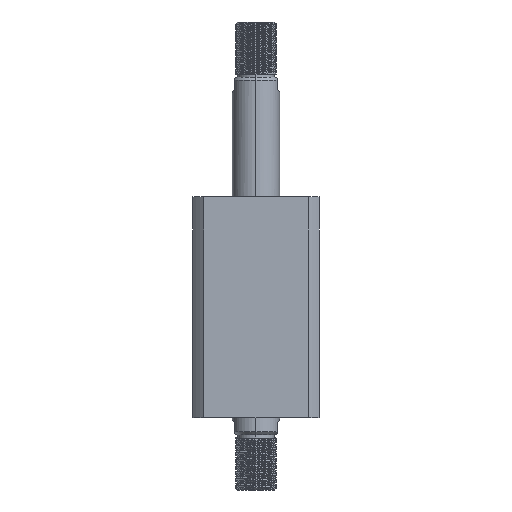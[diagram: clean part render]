
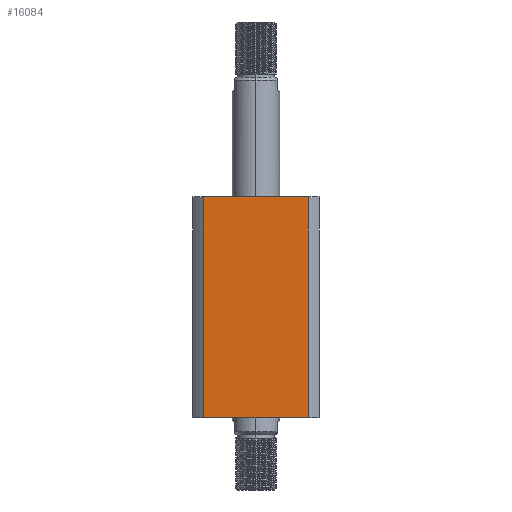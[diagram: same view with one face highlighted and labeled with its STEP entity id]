
A CAD part, left-side view. The second image highlights one B-rep face of the part: STEP entity #16084.
In plain terms, the highlighted planar face has unit normal (-1, 0, 0).
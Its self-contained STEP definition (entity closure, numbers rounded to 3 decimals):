
#282 = DIRECTION ( 'NONE',  ( 0., 1., 0. ) ) ;
#687 = CARTESIAN_POINT ( 'NONE',  ( -40., -33.226, -70. ) ) ;
#1087 = LINE ( 'NONE', #1497, #15148 ) ;
#1497 = CARTESIAN_POINT ( 'NONE',  ( -40., 33.226, 70. ) ) ;
#2081 = DIRECTION ( 'NONE',  ( 0., 0., -1. ) ) ;
#2291 = CARTESIAN_POINT ( 'NONE',  ( -40., -33.226, 70. ) ) ;
#2527 = DIRECTION ( 'NONE',  ( 0., 0., -1. ) ) ;
#2636 = CARTESIAN_POINT ( 'NONE',  ( -40., -33.226, 70. ) ) ;
#2686 = ORIENTED_EDGE ( 'NONE', *, *, #12570, .T. ) ;
#2973 = VERTEX_POINT ( 'NONE', #687 ) ;
#3076 = DIRECTION ( 'NONE',  ( 1., 0., 0. ) ) ;
#3231 = VECTOR ( 'NONE', #2081, 1000. ) ;
#3904 = VERTEX_POINT ( 'NONE', #17006 ) ;
#4165 = LINE ( 'NONE', #2636, #14601 ) ;
#4202 = EDGE_CURVE ( 'NONE', #9202, #2973, #4165, .T. ) ;
#4985 = LINE ( 'NONE', #10151, #13486 ) ;
#5727 = CARTESIAN_POINT ( 'NONE',  ( -40., 33.226, 70. ) ) ;
#9202 = VERTEX_POINT ( 'NONE', #2291 ) ;
#9380 = DIRECTION ( 'NONE',  ( 0., -1., 0. ) ) ;
#9448 = ORIENTED_EDGE ( 'NONE', *, *, #14009, .T. ) ;
#9523 = VERTEX_POINT ( 'NONE', #13420 ) ;
#10151 = CARTESIAN_POINT ( 'NONE',  ( -40., 33.226, -70. ) ) ;
#11071 = FACE_OUTER_BOUND ( 'NONE', #16305, .T. ) ;
#11157 = PLANE ( 'NONE',  #16603 ) ;
#12570 = EDGE_CURVE ( 'NONE', #3904, #2973, #4985, .T. ) ;
#12999 = DIRECTION ( 'NONE',  ( 0., -1., 0. ) ) ;
#13420 = CARTESIAN_POINT ( 'NONE',  ( -40., 33.226, 70. ) ) ;
#13486 = VECTOR ( 'NONE', #12999, 1000. ) ;
#14009 = EDGE_CURVE ( 'NONE', #9523, #3904, #17497, .T. ) ;
#14545 = ORIENTED_EDGE ( 'NONE', *, *, #4202, .F. ) ;
#14601 = VECTOR ( 'NONE', #2527, 1000. ) ;
#15148 = VECTOR ( 'NONE', #9380, 1000. ) ;
#15153 = EDGE_CURVE ( 'NONE', #9523, #9202, #1087, .T. ) ;
#15589 = CARTESIAN_POINT ( 'NONE',  ( -40., 33.226, 70. ) ) ;
#16084 = ADVANCED_FACE ( 'NONE', ( #11071 ), #11157, .F. ) ;
#16305 = EDGE_LOOP ( 'NONE', ( #2686, #14545, #16820, #9448 ) ) ;
#16603 = AXIS2_PLACEMENT_3D ( 'NONE', #5727, #3076, #282 ) ;
#16820 = ORIENTED_EDGE ( 'NONE', *, *, #15153, .F. ) ;
#17006 = CARTESIAN_POINT ( 'NONE',  ( -40., 33.226, -70. ) ) ;
#17497 = LINE ( 'NONE', #15589, #3231 ) ;
